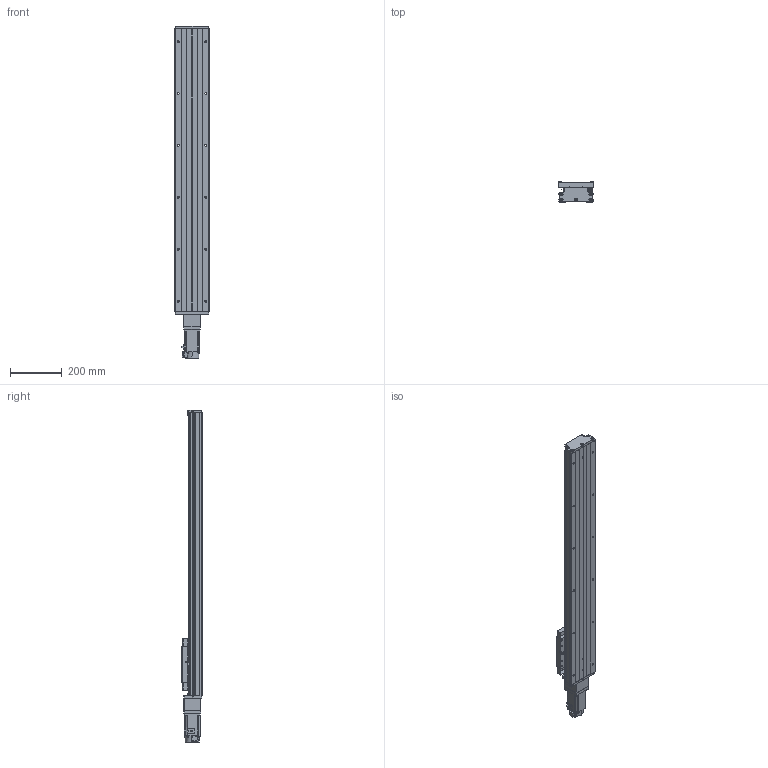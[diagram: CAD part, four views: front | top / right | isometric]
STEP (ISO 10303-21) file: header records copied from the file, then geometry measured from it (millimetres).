
FILE_DESCRIPTION (( 'STEP AP203' ), '1' );
FILE_NAME ('GTH14-850-BC-M40-C4.step', '2023-06-30T08:35:45', ( '微软用户' ), ( '微软中国' ), 'SwSTEP 2.0', 'SolidWorks 2020', '' );
FILE_SCHEMA (( 'CONFIG_CONTROL_DESIGN' ));
Length unit declared in the file: millimetre
Products named in the file (20): CTHA86-027-1; GTH14-005; GBT 70.1-M3℅5; HG-KN43J-S100; GB1155-6X6; GBT77-2000 M3×3; GBT 70.3-M3℅8; GBT70.1 M5℅16; GTH14-031; GTH14-850-BC-M40-C4; GBT 70.2-M3¡Á5_M3¡Á6; す晦芛蹟隊 M3℅5; GTH14-001_850; CTHA60-017; CTHA86-006-1_M40; GTH14-002_GTH14-002; EE_SX911P_R; CTHA86-013; GTH14-004; CTHA60-016
Assembly tree (57 placements, depth 2):
  GTH14-850-BC-M40-C4
    GTH14-001_850
    GTH14-002_GTH14-002
    GTH14-004
    GTH14-005
    GB1155-6X6  x2
    GBT70.1 M5℅16  x10
    GBT 70.2-M3¡Á5_M3¡Á6  x8
    CTHA60-017  x3
    EE_SX911P_R  x3
    CTHA60-016  x2
    GBT 70.1-M3℅5  x6
    GBT77-2000 M3×3  x6
    GTH14-031
    す晦芛蹟隊 M3℅5  x6
    CTHA86-006-1_M40
    CTHA86-013
    CTHA86-027-1
    HG-KN43J-S100
    GBT 70.3-M3℅8  x2
Bounding box: 135 x 78 x 1278.7 mm (x, y, z)
Volume: 6330834.6 mm3; surface area: 985444.5 mm2
Topology: 60 solids, 60 shells, 2424 faces, 5781 edges, 3570 vertices
Faces by surface type: plane 1304, cylinder 656, cone 304, torus 120, sphere 20, bspline 20
Entity records: 44728 total; most frequent: CARTESIAN_POINT 9947, DIRECTION 6576, ORIENTED_EDGE 6446, EDGE_CURVE 3223, AXIS2_PLACEMENT_3D 2243, LINE 2090, VECTOR 2090, VERTEX_POINT 2038
